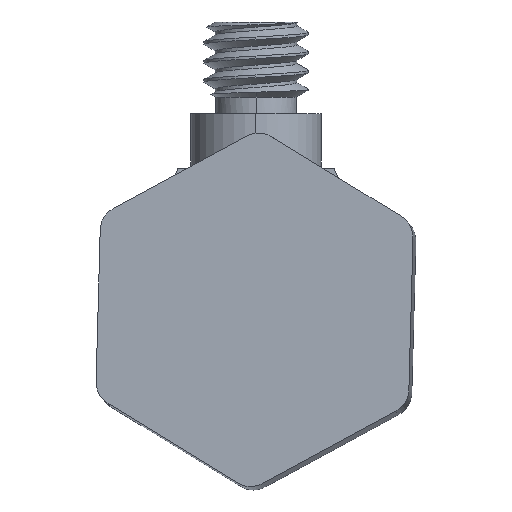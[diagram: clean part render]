
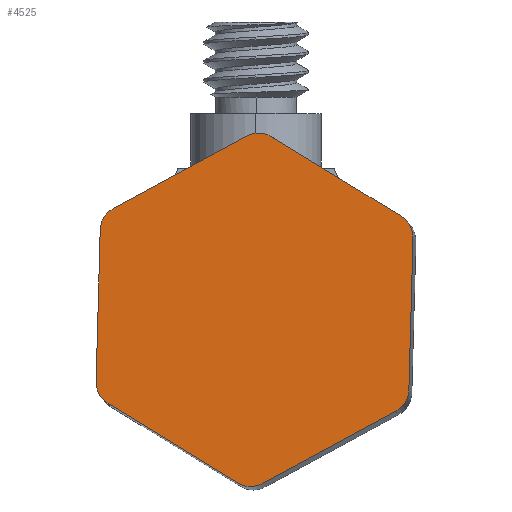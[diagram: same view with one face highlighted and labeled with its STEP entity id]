
A CAD part, front view. The second image highlights one B-rep face of the part: STEP entity #4525.
In plain terms, the highlighted planar face has unit normal (-0.011, -1, 0.014).
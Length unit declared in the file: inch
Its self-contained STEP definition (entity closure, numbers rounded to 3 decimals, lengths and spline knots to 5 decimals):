
#71 = AXIS2_PLACEMENT_3D ( 'NONE', #8011, #2887, #8847 ) ;
#78 = DIRECTION ( 'NONE',  ( 0.011, 1., -0.014 ) ) ;
#85 = CIRCLE ( 'NONE', #5403, 0.03 ) ;
#105 = VECTOR ( 'NONE', #7894, 39.37008 ) ;
#151 = CARTESIAN_POINT ( 'NONE',  ( -0.1567, -0.20892, 0.09721 ) ) ;
#153 = ORIENTED_EDGE ( 'NONE', *, *, #9539, .T. ) ;
#297 = CARTESIAN_POINT ( 'NONE',  ( 0.18815, -0.21298, 0.0879 ) ) ;
#333 = DIRECTION ( 'NONE',  ( 0., -0.014, -1. ) ) ;
#441 = ORIENTED_EDGE ( 'NONE', *, *, #9381, .T. ) ;
#491 = ORIENTED_EDGE ( 'NONE', *, *, #9662, .T. ) ;
#550 = VECTOR ( 'NONE', #9950, 39.37008 ) ;
#598 = CARTESIAN_POINT ( 'NONE',  ( 0.01889, -0.2094, 0.20942 ) ) ;
#696 = AXIS2_PLACEMENT_3D ( 'NONE', #5373, #78, #6216 ) ;
#806 = ORIENTED_EDGE ( 'NONE', *, *, #9239, .T. ) ;
#846 = ORIENTED_EDGE ( 'NONE', *, *, #1593, .F. ) ;
#1010 = DIRECTION ( 'NONE',  ( 0., -0.014, -1. ) ) ;
#1049 = CARTESIAN_POINT ( 'NONE',  ( 0.17386, -0.21246, 0.11428 ) ) ;
#1509 = VERTEX_POINT ( 'NONE', #8499 ) ;
#1593 = EDGE_CURVE ( 'NONE', #5891, #7007, #4695, .T. ) ;
#1820 = CARTESIAN_POINT ( 'NONE',  ( -0.17734, -0.2115, -0.11014 ) ) ;
#1826 = EDGE_CURVE ( 'NONE', #9339, #1509, #5879, .T. ) ;
#1936 = DIRECTION ( 'NONE',  ( -0.852, 0.017, 0.523 ) ) ;
#2167 = ORIENTED_EDGE ( 'NONE', *, *, #9299, .T. ) ;
#2596 = CARTESIAN_POINT ( 'NONE',  ( -0.17734, -0.2115, -0.11014 ) ) ;
#2676 = CARTESIAN_POINT ( 'NONE',  ( 0.17386, -0.21246, 0.11428 ) ) ;
#2887 = DIRECTION ( 'NONE',  ( 0.011, 1., -0.014 ) ) ;
#3336 = EDGE_CURVE ( 'NONE', #7007, #9857, #5443, .T. ) ;
#3531 = EDGE_LOOP ( 'NONE', ( #491, #7717, #7008, #7807, #806, #9475, #846, #2167, #4614, #11015, #4543, #441, #153 ) ) ;
#3679 = DIRECTION ( 'NONE',  ( 0.027, 0.013, 1. ) ) ;
#3719 = CARTESIAN_POINT ( 'NONE',  ( 0.18321, -0.21539, -0.09388 ) ) ;
#4395 = DIRECTION ( 'NONE',  ( -0.011, -1., 0.014 ) ) ;
#4506 = LINE ( 'NONE', #1049, #10383 ) ;
#4507 = VERTEX_POINT ( 'NONE', #2596 ) ;
#4525 = ADVANCED_FACE ( 'NONE', ( #6786 ), #9402, .T. ) ;
#4543 = ORIENTED_EDGE ( 'NONE', *, *, #8348, .F. ) ;
#4550 = VERTEX_POINT ( 'NONE', #2676 ) ;
#4561 = CARTESIAN_POINT ( 'NONE',  ( -0.00667, -0.21439, -0.17971 ) ) ;
#4614 = ORIENTED_EDGE ( 'NONE', *, *, #8195, .F. ) ;
#4695 = CIRCLE ( 'NONE', #8544, 0.03 ) ;
#4789 = LINE ( 'NONE', #5472, #7570 ) ;
#4807 = AXIS2_PLACEMENT_3D ( 'NONE', #10081, #5116, #10912 ) ;
#4869 = CARTESIAN_POINT ( 'NONE',  ( 0.00762, -0.21491, -0.20609 ) ) ;
#4917 = CIRCLE ( 'NONE', #696, 0.03 ) ;
#4956 = CARTESIAN_POINT ( 'NONE',  ( -0.01109, -0.20904, 0.21023 ) ) ;
#4985 = CIRCLE ( 'NONE', #4807, 0.03 ) ;
#5028 = VERTEX_POINT ( 'NONE', #598 ) ;
#5116 = DIRECTION ( 'NONE',  ( 0.011, 1., -0.014 ) ) ;
#5342 = AXIS2_PLACEMENT_3D ( 'NONE', #4561, #10420, #5477 ) ;
#5373 = CARTESIAN_POINT ( 'NONE',  ( 0.15323, -0.21504, -0.09307 ) ) ;
#5403 = AXIS2_PLACEMENT_3D ( 'NONE', #151, #6281, #1010 ) ;
#5443 = CIRCLE ( 'NONE', #5342, 0.03 ) ;
#5472 = CARTESIAN_POINT ( 'NONE',  ( 0.18321, -0.21539, -0.09388 ) ) ;
#5477 = DIRECTION ( 'NONE',  ( 0., -0.014, -1. ) ) ;
#5478 = CIRCLE ( 'NONE', #9147, 0.03 ) ;
#5571 = CARTESIAN_POINT ( 'NONE',  ( -0.00667, -0.2148, -0.20971 ) ) ;
#5617 = DIRECTION ( 'NONE',  ( -0.011, -1., 0.014 ) ) ;
#5879 = LINE ( 'NONE', #9328, #5954 ) ;
#5891 = VERTEX_POINT ( 'NONE', #4869 ) ;
#5954 = VECTOR ( 'NONE', #10061, 39.37008 ) ;
#6216 = DIRECTION ( 'NONE',  ( 0., -0.014, -1. ) ) ;
#6281 = DIRECTION ( 'NONE',  ( 0.011, 1., -0.014 ) ) ;
#6629 = CARTESIAN_POINT ( 'NONE',  ( -0.00667, -0.21439, -0.17971 ) ) ;
#6786 = FACE_OUTER_BOUND ( 'NONE', #3531, .T. ) ;
#6798 = VERTEX_POINT ( 'NONE', #7037 ) ;
#6886 = CARTESIAN_POINT ( 'NONE',  ( -0.02237, -0.21456, -0.20528 ) ) ;
#7007 = VERTEX_POINT ( 'NONE', #5571 ) ;
#7008 = ORIENTED_EDGE ( 'NONE', *, *, #1826, .T. ) ;
#7032 = VERTEX_POINT ( 'NONE', #297 ) ;
#7037 = CARTESIAN_POINT ( 'NONE',  ( -0.01109, -0.20904, 0.21023 ) ) ;
#7112 = CARTESIAN_POINT ( 'NONE',  ( 0.00762, -0.21491, -0.20609 ) ) ;
#7224 = CARTESIAN_POINT ( 'NONE',  ( -0.17099, -0.2084, 0.12358 ) ) ;
#7315 = EDGE_CURVE ( 'NONE', #4507, #1509, #4985, .T. ) ;
#7570 = VECTOR ( 'NONE', #3679, 39.37008 ) ;
#7717 = ORIENTED_EDGE ( 'NONE', *, *, #8862, .F. ) ;
#7741 = LINE ( 'NONE', #4956, #550 ) ;
#7807 = ORIENTED_EDGE ( 'NONE', *, *, #7315, .F. ) ;
#7894 = DIRECTION ( 'NONE',  ( 0.879, -0.004, 0.476 ) ) ;
#8011 = CARTESIAN_POINT ( 'NONE',  ( 0.15816, -0.21262, 0.08871 ) ) ;
#8193 = VECTOR ( 'NONE', #10269, 39.37008 ) ;
#8195 = EDGE_CURVE ( 'NONE', #10889, #10391, #4917, .T. ) ;
#8348 = EDGE_CURVE ( 'NONE', #4550, #7032, #8362, .T. ) ;
#8362 = CIRCLE ( 'NONE', #71, 0.03 ) ;
#8499 = CARTESIAN_POINT ( 'NONE',  ( -0.19162, -0.21098, -0.08376 ) ) ;
#8544 = AXIS2_PLACEMENT_3D ( 'NONE', #6629, #9952, #8575 ) ;
#8575 = DIRECTION ( 'NONE',  ( 0., -0.014, -1. ) ) ;
#8847 = DIRECTION ( 'NONE',  ( 0., -0.014, -1. ) ) ;
#8862 = EDGE_CURVE ( 'NONE', #9339, #10518, #85, .T. ) ;
#9147 = AXIS2_PLACEMENT_3D ( 'NONE', #10557, #5617, #333 ) ;
#9230 = LINE ( 'NONE', #7112, #105 ) ;
#9239 = EDGE_CURVE ( 'NONE', #4507, #9857, #9892, .T. ) ;
#9299 = EDGE_CURVE ( 'NONE', #5891, #10391, #9230, .T. ) ;
#9328 = CARTESIAN_POINT ( 'NONE',  ( -0.18669, -0.20856, 0.09802 ) ) ;
#9334 = EDGE_CURVE ( 'NONE', #10889, #7032, #4789, .T. ) ;
#9339 = VERTEX_POINT ( 'NONE', #10413 ) ;
#9381 = EDGE_CURVE ( 'NONE', #4550, #5028, #4506, .T. ) ;
#9402 = PLANE ( 'NONE',  #9979 ) ;
#9445 = CARTESIAN_POINT ( 'NONE',  ( -0.00174, -0.21198, 0.00207 ) ) ;
#9475 = ORIENTED_EDGE ( 'NONE', *, *, #3336, .F. ) ;
#9539 = EDGE_CURVE ( 'NONE', #5028, #6798, #5478, .T. ) ;
#9662 = EDGE_CURVE ( 'NONE', #6798, #10518, #7741, .T. ) ;
#9857 = VERTEX_POINT ( 'NONE', #6886 ) ;
#9892 = LINE ( 'NONE', #1820, #8193 ) ;
#9950 = DIRECTION ( 'NONE',  ( -0.879, 0.004, -0.476 ) ) ;
#9952 = DIRECTION ( 'NONE',  ( 0.011, 1., -0.014 ) ) ;
#9979 = AXIS2_PLACEMENT_3D ( 'NONE', #9445, #4395, #10267 ) ;
#10061 = DIRECTION ( 'NONE',  ( -0.027, -0.013, -1. ) ) ;
#10081 = CARTESIAN_POINT ( 'NONE',  ( -0.16164, -0.21133, -0.08457 ) ) ;
#10267 = DIRECTION ( 'NONE',  ( 0., -0.014, -1. ) ) ;
#10269 = DIRECTION ( 'NONE',  ( 0.852, -0.017, -0.523 ) ) ;
#10350 = CARTESIAN_POINT ( 'NONE',  ( 0.16752, -0.21556, -0.11944 ) ) ;
#10383 = VECTOR ( 'NONE', #1936, 39.37008 ) ;
#10391 = VERTEX_POINT ( 'NONE', #10350 ) ;
#10413 = CARTESIAN_POINT ( 'NONE',  ( -0.18669, -0.20856, 0.09802 ) ) ;
#10420 = DIRECTION ( 'NONE',  ( 0.011, 1., -0.014 ) ) ;
#10518 = VERTEX_POINT ( 'NONE', #7224 ) ;
#10557 = CARTESIAN_POINT ( 'NONE',  ( 0.00319, -0.20956, 0.18385 ) ) ;
#10889 = VERTEX_POINT ( 'NONE', #3719 ) ;
#10912 = DIRECTION ( 'NONE',  ( 0., -0.014, -1. ) ) ;
#11015 = ORIENTED_EDGE ( 'NONE', *, *, #9334, .T. ) ;
